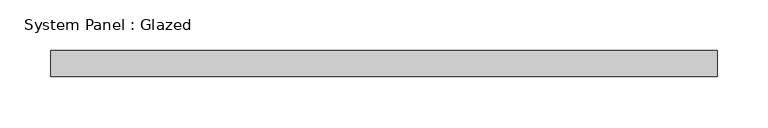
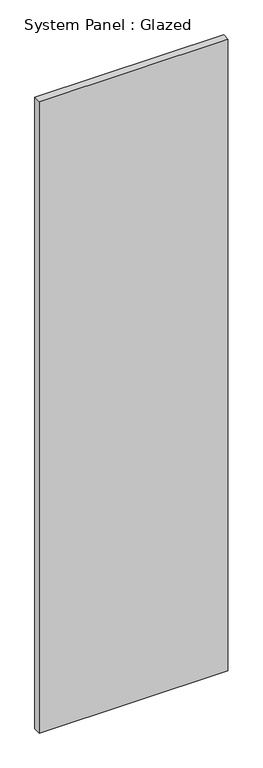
"""IFC4 building model written with IfcOpenShell, lengths in millimetres: plate geometry, System Panel : Glazed."""

from ifc_helpers import new_model, si_unit, origin, origin_with_axes, place, context, project, spatial, polyline, outline, extrude, source, transform, mapped, element, save


def system_panel_glazed_a8da4757(model_context):
    return source(origin(), model_context, "Body", "SweptSolid", [
        extrude(outline(polyline([(326.5833332, 19.05), (-326.5833332, 19.05), (-326.5833332, 44.45), (326.5833332, 44.45), (326.5833332, 19.05)])), origin_with_axes(), (0.0, 0.0, 1.0), 2309.7403044),
    ])


if __name__ == "__main__":
    model = new_model("IFC4")
    model_context = context("Model", 3, world=origin())
    ifc_project = project(units=[si_unit("LENGTHUNIT", "METRE", prefix="MILLI")], contexts=[model_context])
    site = spatial("IfcSite", under=ifc_project)
    building = spatial("IfcBuilding", under=site)
    placement = place(None, origin())
    system_panel_glazed_shape = system_panel_glazed_a8da4757(model_context)
    element("IfcPlate", 1, ObjectType="System Panel : Glazed", at=placement, inside=building, context=model_context, shape_type="MappedRepresentation", body=[
        mapped(system_panel_glazed_shape, transform((0.0, 0.0, 0.0), x_axis=(1.0, 0.0, 0.0), y_axis=(0.0, 1.0, 0.0), z_axis=(0.0, 0.0, 1.0))),
    ])
    save(model, "model.ifc")
